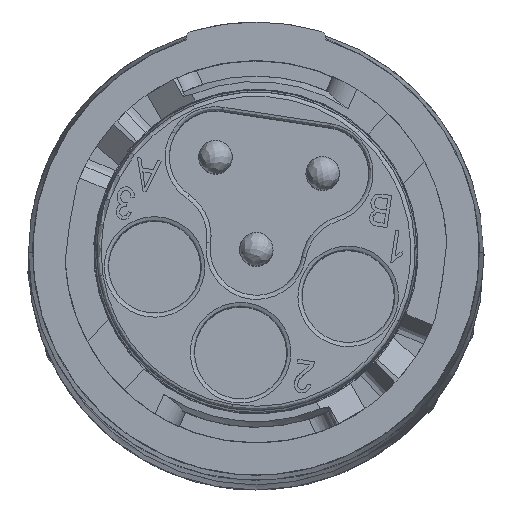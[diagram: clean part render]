
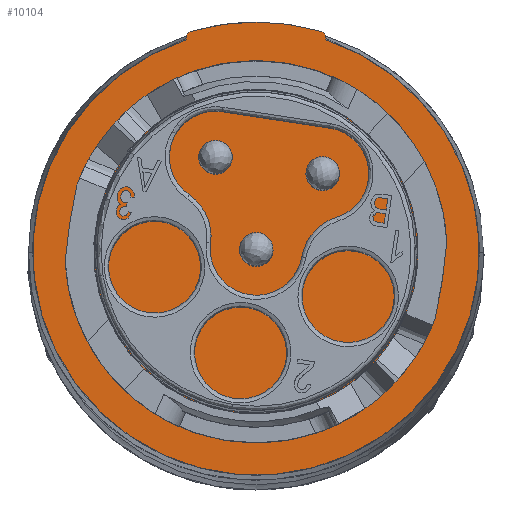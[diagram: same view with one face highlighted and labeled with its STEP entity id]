
A CAD part, top view. The second image highlights one B-rep face of the part: STEP entity #10104.
In plain terms, the highlighted planar face has unit normal (0, 0, 1).
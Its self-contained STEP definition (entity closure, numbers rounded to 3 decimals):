
#263 = DIRECTION ( 'NONE',  ( 0., 0., -1. ) ) ;
#1142 = LINE ( 'NONE', #6599, #5775 ) ;
#1553 = EDGE_LOOP ( 'NONE', ( #44446, #49656, #16577, #7963, #2710, #10906 ) ) ;
#2710 = ORIENTED_EDGE ( 'NONE', *, *, #6053, .F. ) ;
#4223 = LINE ( 'NONE', #12548, #47398 ) ;
#5061 = VERTEX_POINT ( 'NONE', #11723 ) ;
#5775 = VECTOR ( 'NONE', #22441, 1000. ) ;
#6053 = EDGE_CURVE ( 'NONE', #8897, #5061, #4223, .T. ) ;
#6599 = CARTESIAN_POINT ( 'NONE',  ( -63.838, 278.618, -581.011 ) ) ;
#7393 = CIRCLE ( 'NONE', #14507, 0.332 ) ;
#7963 = ORIENTED_EDGE ( 'NONE', *, *, #43561, .F. ) ;
#8897 = VERTEX_POINT ( 'NONE', #18974 ) ;
#9478 = DIRECTION ( 'NONE',  ( 1., 0., 0. ) ) ;
#10104 = ADVANCED_FACE ( 'NONE', ( #38118 ), #29579, .F. ) ;
#10906 = ORIENTED_EDGE ( 'NONE', *, *, #37326, .T. ) ;
#11209 = DIRECTION ( 'NONE',  ( 0., 0., -1. ) ) ;
#11587 = CIRCLE ( 'NONE', #42521, 10.973 ) ;
#11723 = CARTESIAN_POINT ( 'NONE',  ( -70.488, 278.764, -581.011 ) ) ;
#12441 = DIRECTION ( 'NONE',  ( 1., 0., 0. ) ) ;
#12548 = CARTESIAN_POINT ( 'NONE',  ( -70.488, 278.618, -581.011 ) ) ;
#14507 = AXIS2_PLACEMENT_3D ( 'NONE', #36218, #35670, #23270 ) ;
#16477 = CARTESIAN_POINT ( 'NONE',  ( -70.249, 279.084, -581.011 ) ) ;
#16577 = ORIENTED_EDGE ( 'NONE', *, *, #35341, .T. ) ;
#18727 = DIRECTION ( 'NONE',  ( 1., 0., 0. ) ) ;
#18974 = CARTESIAN_POINT ( 'NONE',  ( -70.488, 278.682, -581.011 ) ) ;
#21129 = DIRECTION ( 'NONE',  ( 0., 1., 0. ) ) ;
#22441 = DIRECTION ( 'NONE',  ( 0., -1., 0. ) ) ;
#23270 = DIRECTION ( 'NONE',  ( 1., 0., 0. ) ) ;
#23398 = DIRECTION ( 'NONE',  ( 0., 0., 1. ) ) ;
#25056 = AXIS2_PLACEMENT_3D ( 'NONE', #35440, #39843, #9478 ) ;
#29520 = VERTEX_POINT ( 'NONE', #30017 ) ;
#29579 = PLANE ( 'NONE',  #42283 ) ;
#30017 = CARTESIAN_POINT ( 'NONE',  ( -64.077, 279.084, -581.011 ) ) ;
#30593 = CARTESIAN_POINT ( 'NONE',  ( -63.838, 278.682, -581.011 ) ) ;
#33481 = CARTESIAN_POINT ( 'NONE',  ( -63.838, 278.764, -581.011 ) ) ;
#35341 = EDGE_CURVE ( 'NONE', #29520, #35507, #11587, .T. ) ;
#35440 = CARTESIAN_POINT ( 'NONE',  ( -67.163, 268.554, -581.011 ) ) ;
#35507 = VERTEX_POINT ( 'NONE', #16477 ) ;
#35666 = VERTEX_POINT ( 'NONE', #33481 ) ;
#35670 = DIRECTION ( 'NONE',  ( 0., 0., -1. ) ) ;
#36218 = CARTESIAN_POINT ( 'NONE',  ( -70.156, 278.764, -581.011 ) ) ;
#37326 = EDGE_CURVE ( 'NONE', #8897, #44231, #42711, .T. ) ;
#38118 = FACE_OUTER_BOUND ( 'NONE', #1553, .T. ) ;
#39843 = DIRECTION ( 'NONE',  ( 0., 0., 1. ) ) ;
#42283 = AXIS2_PLACEMENT_3D ( 'NONE', #46440, #263, #12441 ) ;
#42521 = AXIS2_PLACEMENT_3D ( 'NONE', #48802, #23398, #52430 ) ;
#42711 = CIRCLE ( 'NONE', #25056, 10.66 ) ;
#43561 = EDGE_CURVE ( 'NONE', #5061, #35507, #7393, .T. ) ;
#43912 = CIRCLE ( 'NONE', #48307, 0.332 ) ;
#44231 = VERTEX_POINT ( 'NONE', #30593 ) ;
#44446 = ORIENTED_EDGE ( 'NONE', *, *, #49868, .F. ) ;
#46440 = CARTESIAN_POINT ( 'NONE',  ( -77.749, 279.655, -581.011 ) ) ;
#47398 = VECTOR ( 'NONE', #21129, 1000. ) ;
#48307 = AXIS2_PLACEMENT_3D ( 'NONE', #49101, #11209, #18727 ) ;
#48802 = CARTESIAN_POINT ( 'NONE',  ( -67.163, 268.554, -581.011 ) ) ;
#49101 = CARTESIAN_POINT ( 'NONE',  ( -64.171, 278.764, -581.011 ) ) ;
#49656 = ORIENTED_EDGE ( 'NONE', *, *, #53978, .F. ) ;
#49868 = EDGE_CURVE ( 'NONE', #35666, #44231, #1142, .T. ) ;
#52430 = DIRECTION ( 'NONE',  ( 1., 0., 0. ) ) ;
#53978 = EDGE_CURVE ( 'NONE', #29520, #35666, #43912, .T. ) ;
